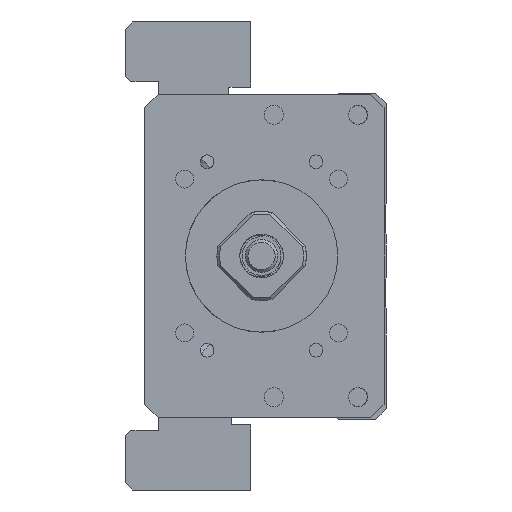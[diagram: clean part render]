
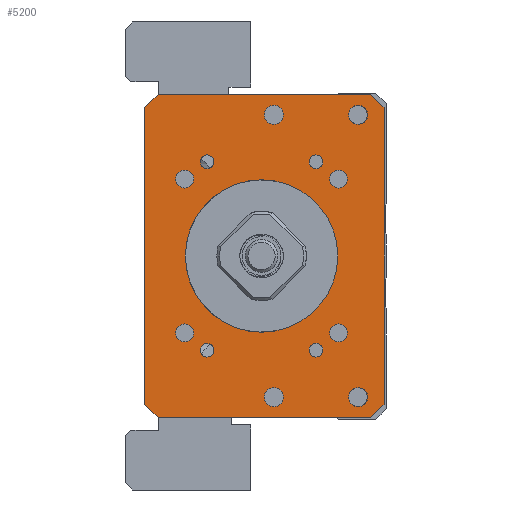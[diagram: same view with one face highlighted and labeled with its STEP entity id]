
A CAD part, left-side view. The second image highlights one B-rep face of the part: STEP entity #5200.
In plain terms, the highlighted planar face has unit normal (-1, 0, 0).
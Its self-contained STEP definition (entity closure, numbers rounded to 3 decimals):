
#4260=FACE_BOUND('',#6830,.T.);
#4261=FACE_BOUND('',#6831,.T.);
#4262=FACE_BOUND('',#6832,.T.);
#4263=FACE_BOUND('',#6833,.T.);
#4264=FACE_BOUND('',#6834,.T.);
#4265=FACE_BOUND('',#6835,.T.);
#4266=FACE_BOUND('',#6836,.T.);
#4267=FACE_BOUND('',#6837,.T.);
#4268=FACE_BOUND('',#6838,.T.);
#4269=FACE_BOUND('',#6839,.T.);
#4270=FACE_BOUND('',#6840,.T.);
#4271=FACE_BOUND('',#6841,.T.);
#4272=FACE_BOUND('',#6842,.T.);
#4273=FACE_BOUND('',#6843,.T.);
#4619=CIRCLE('',#14911,14.);
#4628=CIRCLE('',#14922,1.65);
#4629=CIRCLE('',#14923,1.65);
#4630=CIRCLE('',#14924,1.65);
#4631=CIRCLE('',#14925,1.65);
#4632=CIRCLE('',#14926,1.25);
#4633=CIRCLE('',#14927,1.75);
#4634=CIRCLE('',#14928,1.25);
#4635=CIRCLE('',#14929,1.75);
#4636=CIRCLE('',#14930,1.25);
#4637=CIRCLE('',#14931,1.75);
#4638=CIRCLE('',#14932,1.75);
#4639=CIRCLE('',#14933,1.25);
#5200=ADVANCED_FACE('',(#4260,#4261,#4262,#4263,#4264,#4265,#4266,#4267,
#4268,#4269,#4270,#4271,#4272,#4273),#5676,.F.);
#5676=PLANE('',#14934);
#6830=EDGE_LOOP('',(#9259));
#6831=EDGE_LOOP('',(#9260));
#6832=EDGE_LOOP('',(#9261));
#6833=EDGE_LOOP('',(#9262));
#6834=EDGE_LOOP('',(#9263));
#6835=EDGE_LOOP('',(#9264));
#6836=EDGE_LOOP('',(#9265));
#6837=EDGE_LOOP('',(#9266));
#6838=EDGE_LOOP('',(#9267));
#6839=EDGE_LOOP('',(#9268,#9269,#9270,#9271,#9272,#9273,#9274,#9275));
#6840=EDGE_LOOP('',(#9276));
#6841=EDGE_LOOP('',(#9277));
#6842=EDGE_LOOP('',(#9278));
#6843=EDGE_LOOP('',(#9279));
#9259=ORIENTED_EDGE('',*,*,#12041,.F.);
#9260=ORIENTED_EDGE('',*,*,#12042,.F.);
#9261=ORIENTED_EDGE('',*,*,#12043,.F.);
#9262=ORIENTED_EDGE('',*,*,#12044,.F.);
#9263=ORIENTED_EDGE('',*,*,#12045,.F.);
#9264=ORIENTED_EDGE('',*,*,#12046,.T.);
#9265=ORIENTED_EDGE('',*,*,#12047,.F.);
#9266=ORIENTED_EDGE('',*,*,#12048,.F.);
#9267=ORIENTED_EDGE('',*,*,#12049,.F.);
#9268=ORIENTED_EDGE('',*,*,#12038,.T.);
#9269=ORIENTED_EDGE('',*,*,#12050,.T.);
#9270=ORIENTED_EDGE('',*,*,#12051,.F.);
#9271=ORIENTED_EDGE('',*,*,#12052,.T.);
#9272=ORIENTED_EDGE('',*,*,#12053,.F.);
#9273=ORIENTED_EDGE('',*,*,#12054,.T.);
#9274=ORIENTED_EDGE('',*,*,#12055,.T.);
#9275=ORIENTED_EDGE('',*,*,#12056,.T.);
#9276=ORIENTED_EDGE('',*,*,#12057,.F.);
#9277=ORIENTED_EDGE('',*,*,#12058,.F.);
#9278=ORIENTED_EDGE('',*,*,#12059,.F.);
#9279=ORIENTED_EDGE('',*,*,#12018,.F.);
#10707=VERTEX_POINT('',#20987);
#10727=VERTEX_POINT('',#21047);
#10728=VERTEX_POINT('',#21049);
#10730=VERTEX_POINT('',#21055);
#10731=VERTEX_POINT('',#21057);
#10732=VERTEX_POINT('',#21059);
#10733=VERTEX_POINT('',#21061);
#10734=VERTEX_POINT('',#21063);
#10735=VERTEX_POINT('',#21065);
#10736=VERTEX_POINT('',#21067);
#10737=VERTEX_POINT('',#21069);
#10738=VERTEX_POINT('',#21071);
#10739=VERTEX_POINT('',#21073);
#10740=VERTEX_POINT('',#21075);
#10741=VERTEX_POINT('',#21077);
#10742=VERTEX_POINT('',#21079);
#10743=VERTEX_POINT('',#21081);
#10744=VERTEX_POINT('',#21083);
#10745=VERTEX_POINT('',#21086);
#10746=VERTEX_POINT('',#21088);
#10747=VERTEX_POINT('',#21090);
#12018=EDGE_CURVE('',#10707,#10707,#4619,.T.);
#12038=EDGE_CURVE('',#10728,#10727,#13132,.T.);
#12041=EDGE_CURVE('',#10730,#10730,#4628,.T.);
#12042=EDGE_CURVE('',#10731,#10731,#4629,.T.);
#12043=EDGE_CURVE('',#10732,#10732,#4630,.T.);
#12044=EDGE_CURVE('',#10733,#10733,#4631,.T.);
#12045=EDGE_CURVE('',#10734,#10734,#4632,.T.);
#12046=EDGE_CURVE('',#10735,#10735,#4633,.T.);
#12047=EDGE_CURVE('',#10736,#10736,#4634,.T.);
#12048=EDGE_CURVE('',#10737,#10737,#4635,.T.);
#12049=EDGE_CURVE('',#10738,#10738,#4636,.T.);
#12050=EDGE_CURVE('',#10727,#10739,#13134,.T.);
#12051=EDGE_CURVE('',#10740,#10739,#13135,.T.);
#12052=EDGE_CURVE('',#10740,#10741,#13136,.T.);
#12053=EDGE_CURVE('',#10742,#10741,#13137,.T.);
#12054=EDGE_CURVE('',#10742,#10743,#13138,.T.);
#12055=EDGE_CURVE('',#10743,#10744,#13139,.T.);
#12056=EDGE_CURVE('',#10744,#10728,#13140,.T.);
#12057=EDGE_CURVE('',#10745,#10745,#4637,.T.);
#12058=EDGE_CURVE('',#10746,#10746,#4638,.T.);
#12059=EDGE_CURVE('',#10747,#10747,#4639,.T.);
#13132=LINE('',#21048,#14027);
#13134=LINE('',#21072,#14029);
#13135=LINE('',#21074,#14030);
#13136=LINE('',#21076,#14031);
#13137=LINE('',#21078,#14032);
#13138=LINE('',#21080,#14033);
#13139=LINE('',#21082,#14034);
#13140=LINE('',#21084,#14035);
#14027=VECTOR('',#17450,1.);
#14029=VECTOR('',#17474,1.);
#14030=VECTOR('',#17475,1.);
#14031=VECTOR('',#17476,1.);
#14032=VECTOR('',#17477,1.);
#14033=VECTOR('',#17478,1.);
#14034=VECTOR('',#17479,1.);
#14035=VECTOR('',#17480,1.);
#14911=AXIS2_PLACEMENT_3D('',#20986,#17424,#17425);
#14922=AXIS2_PLACEMENT_3D('',#21054,#17456,#17457);
#14923=AXIS2_PLACEMENT_3D('',#21056,#17458,#17459);
#14924=AXIS2_PLACEMENT_3D('',#21058,#17460,#17461);
#14925=AXIS2_PLACEMENT_3D('',#21060,#17462,#17463);
#14926=AXIS2_PLACEMENT_3D('',#21062,#17464,#17465);
#14927=AXIS2_PLACEMENT_3D('',#21064,#17466,#17467);
#14928=AXIS2_PLACEMENT_3D('',#21066,#17468,#17469);
#14929=AXIS2_PLACEMENT_3D('',#21068,#17470,#17471);
#14930=AXIS2_PLACEMENT_3D('',#21070,#17472,#17473);
#14931=AXIS2_PLACEMENT_3D('',#21085,#17481,#17482);
#14932=AXIS2_PLACEMENT_3D('',#21087,#17483,#17484);
#14933=AXIS2_PLACEMENT_3D('',#21089,#17485,#17486);
#14934=AXIS2_PLACEMENT_3D('',#21091,#17487,#17488);
#17424=DIRECTION('',(-1.,0.,0.));
#17425=DIRECTION('',(0.,1.,0.));
#17450=DIRECTION('',(0.,0.,-1.));
#17456=DIRECTION('',(-1.,0.,0.));
#17457=DIRECTION('',(0.,0.,1.));
#17458=DIRECTION('',(-1.,0.,0.));
#17459=DIRECTION('',(0.,0.,1.));
#17460=DIRECTION('',(-1.,0.,0.));
#17461=DIRECTION('',(0.,0.,1.));
#17462=DIRECTION('',(-1.,0.,0.));
#17463=DIRECTION('',(0.,0.,1.));
#17464=DIRECTION('',(-1.,0.,0.));
#17465=DIRECTION('',(0.,1.,0.));
#17466=DIRECTION('',(1.,0.,0.));
#17467=DIRECTION('',(0.,0.,1.));
#17468=DIRECTION('',(-1.,0.,0.));
#17469=DIRECTION('',(0.,1.,0.));
#17470=DIRECTION('',(-1.,0.,0.));
#17471=DIRECTION('',(0.,0.,1.));
#17472=DIRECTION('',(-1.,0.,0.));
#17473=DIRECTION('',(0.,1.,0.));
#17474=DIRECTION('',(0.,-0.707,-0.707));
#17475=DIRECTION('',(0.,1.,0.));
#17476=DIRECTION('',(0.,-0.707,0.707));
#17477=DIRECTION('',(0.,0.,-1.));
#17478=DIRECTION('',(0.,0.707,0.707));
#17479=DIRECTION('',(0.,1.,0.));
#17480=DIRECTION('',(0.,0.707,-0.707));
#17481=DIRECTION('',(-1.,0.,0.));
#17482=DIRECTION('',(0.,0.,1.));
#17483=DIRECTION('',(-1.,0.,0.));
#17484=DIRECTION('',(0.,0.,1.));
#17485=DIRECTION('',(-1.,0.,0.));
#17486=DIRECTION('',(0.,1.,0.));
#17487=DIRECTION('',(1.,0.,0.));
#17488=DIRECTION('',(0.,1.,0.));
#20986=CARTESIAN_POINT('',(-211.,0.,-500.));
#20987=CARTESIAN_POINT('',(-211.,14.,-500.));
#21047=CARTESIAN_POINT('',(-211.,21.499,-527.25));
#21048=CARTESIAN_POINT('',(-211.,21.499,-470.25));
#21049=CARTESIAN_POINT('',(-211.,21.499,-472.75));
#21054=CARTESIAN_POINT('',(-211.,14.142,-485.858));
#21055=CARTESIAN_POINT('',(-211.,14.142,-484.208));
#21056=CARTESIAN_POINT('',(-211.,-14.142,-485.858));
#21057=CARTESIAN_POINT('',(-211.,-14.142,-484.208));
#21058=CARTESIAN_POINT('',(-211.,14.142,-514.142));
#21059=CARTESIAN_POINT('',(-211.,14.142,-512.492));
#21060=CARTESIAN_POINT('',(-211.,-14.142,-514.142));
#21061=CARTESIAN_POINT('',(-211.,-14.142,-512.492));
#21062=CARTESIAN_POINT('',(-211.,-10.,-517.321));
#21063=CARTESIAN_POINT('',(-211.,-8.75,-517.321));
#21064=CARTESIAN_POINT('',(-211.,-2.25,-525.936));
#21065=CARTESIAN_POINT('',(-211.,-2.25,-524.186));
#21066=CARTESIAN_POINT('',(-211.,10.,-482.679));
#21067=CARTESIAN_POINT('',(-211.,11.25,-482.679));
#21068=CARTESIAN_POINT('',(-211.,-2.25,-474.064));
#21069=CARTESIAN_POINT('',(-211.,-2.25,-472.314));
#21070=CARTESIAN_POINT('',(-211.,10.,-517.321));
#21071=CARTESIAN_POINT('',(-211.,11.25,-517.321));
#21072=CARTESIAN_POINT('',(-211.,18.999,-529.75));
#21073=CARTESIAN_POINT('',(-211.,18.999,-529.75));
#21074=CARTESIAN_POINT('',(-211.,-22.501,-529.75));
#21075=CARTESIAN_POINT('',(-211.,-20.001,-529.75));
#21076=CARTESIAN_POINT('',(-211.,-22.501,-527.25));
#21077=CARTESIAN_POINT('',(-211.,-22.501,-527.25));
#21078=CARTESIAN_POINT('',(-211.,-22.501,-470.25));
#21079=CARTESIAN_POINT('',(-211.,-22.501,-472.75));
#21080=CARTESIAN_POINT('',(-211.,-22.501,-472.75));
#21081=CARTESIAN_POINT('',(-211.,-20.001,-470.25));
#21082=CARTESIAN_POINT('',(-211.,-22.501,-470.25));
#21083=CARTESIAN_POINT('',(-211.,18.999,-470.25));
#21084=CARTESIAN_POINT('',(-211.,18.999,-470.25));
#21085=CARTESIAN_POINT('',(-211.,-17.75,-474.064));
#21086=CARTESIAN_POINT('',(-211.,-17.75,-472.314));
#21087=CARTESIAN_POINT('',(-211.,-17.75,-525.936));
#21088=CARTESIAN_POINT('',(-211.,-17.75,-524.186));
#21089=CARTESIAN_POINT('',(-211.,-10.,-482.679));
#21090=CARTESIAN_POINT('',(-211.,-8.75,-482.679));
#21091=CARTESIAN_POINT('',(-211.,-22.501,-470.25));
